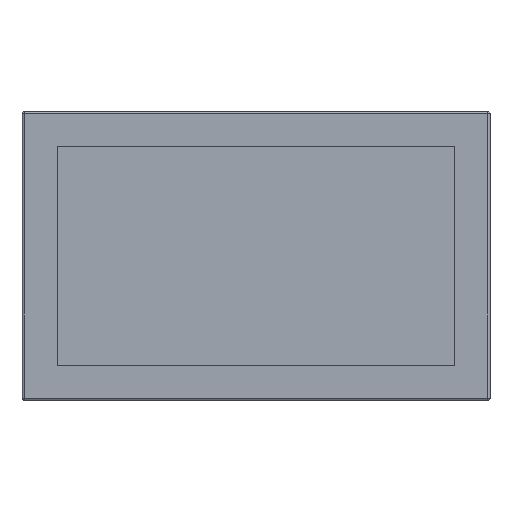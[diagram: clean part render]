
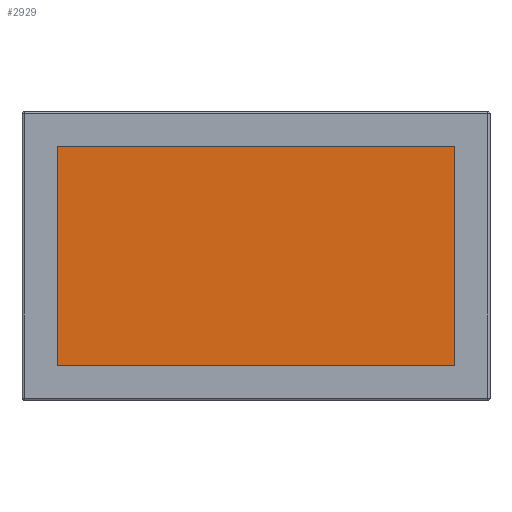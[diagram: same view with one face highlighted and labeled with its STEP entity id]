
A CAD part, top view. The second image highlights one B-rep face of the part: STEP entity #2929.
In plain terms, the highlighted planar face has unit normal (0, 0, 1).
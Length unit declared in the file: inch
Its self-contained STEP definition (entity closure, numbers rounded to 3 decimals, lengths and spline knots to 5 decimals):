
#201 = VECTOR ( 'NONE', #1302, 39.37008 ) ;
#374 = EDGE_LOOP ( 'NONE', ( #1216, #2518, #3864, #3473 ) ) ;
#540 = CARTESIAN_POINT ( 'NONE',  ( 0., 0., -0.095 ) ) ;
#597 = PLANE ( 'NONE',  #946 ) ;
#715 = CARTESIAN_POINT ( 'NONE',  ( -8.61, 4.75, -0.095 ) ) ;
#851 = CARTESIAN_POINT ( 'NONE',  ( 8.61, -4.75, -0.095 ) ) ;
#867 = EDGE_CURVE ( 'NONE', #2586, #1378, #3184, .T. ) ;
#946 = AXIS2_PLACEMENT_3D ( 'NONE', #540, #2090, #1204 ) ;
#1167 = VECTOR ( 'NONE', #3345, 39.37008 ) ;
#1204 = DIRECTION ( 'NONE',  ( 1., 0., 0. ) ) ;
#1216 = ORIENTED_EDGE ( 'NONE', *, *, #1736, .T. ) ;
#1302 = DIRECTION ( 'NONE',  ( -1., 0., 0. ) ) ;
#1378 = VERTEX_POINT ( 'NONE', #1679 ) ;
#1456 = LINE ( 'NONE', #3750, #2884 ) ;
#1615 = EDGE_CURVE ( 'NONE', #2348, #2586, #2680, .T. ) ;
#1679 = CARTESIAN_POINT ( 'NONE',  ( 8.61, 4.75, -0.095 ) ) ;
#1736 = EDGE_CURVE ( 'NONE', #3247, #2348, #1456, .T. ) ;
#1820 = EDGE_CURVE ( 'NONE', #1378, #3247, #2883, .T. ) ;
#1942 = CARTESIAN_POINT ( 'NONE',  ( -8.61, -4.75, -0.095 ) ) ;
#2090 = DIRECTION ( 'NONE',  ( 0., 0., 1. ) ) ;
#2348 = VERTEX_POINT ( 'NONE', #1942 ) ;
#2420 = CARTESIAN_POINT ( 'NONE',  ( -8.61, -4.75, -0.095 ) ) ;
#2515 = FACE_OUTER_BOUND ( 'NONE', #374, .T. ) ;
#2518 = ORIENTED_EDGE ( 'NONE', *, *, #1615, .T. ) ;
#2586 = VERTEX_POINT ( 'NONE', #851 ) ;
#2680 = LINE ( 'NONE', #2420, #1167 ) ;
#2839 = CARTESIAN_POINT ( 'NONE',  ( 8.61, 4.75, -0.095 ) ) ;
#2883 = LINE ( 'NONE', #715, #201 ) ;
#2884 = VECTOR ( 'NONE', #3162, 39.37008 ) ;
#2929 = ADVANCED_FACE ( 'NONE', ( #2515 ), #597, .T. ) ;
#3092 = VECTOR ( 'NONE', #3181, 39.37008 ) ;
#3162 = DIRECTION ( 'NONE',  ( 0., -1., 0. ) ) ;
#3181 = DIRECTION ( 'NONE',  ( 0., 1., 0. ) ) ;
#3184 = LINE ( 'NONE', #2839, #3092 ) ;
#3196 = CARTESIAN_POINT ( 'NONE',  ( -8.61, 4.75, -0.095 ) ) ;
#3247 = VERTEX_POINT ( 'NONE', #3196 ) ;
#3345 = DIRECTION ( 'NONE',  ( 1., 0., 0. ) ) ;
#3473 = ORIENTED_EDGE ( 'NONE', *, *, #1820, .T. ) ;
#3750 = CARTESIAN_POINT ( 'NONE',  ( -8.61, 4.75, -0.095 ) ) ;
#3864 = ORIENTED_EDGE ( 'NONE', *, *, #867, .T. ) ;
